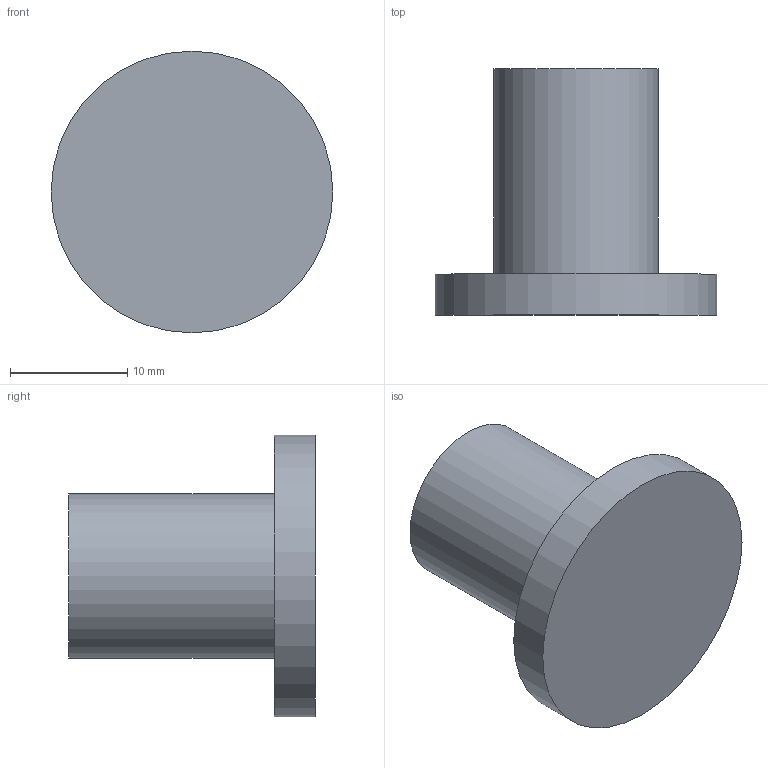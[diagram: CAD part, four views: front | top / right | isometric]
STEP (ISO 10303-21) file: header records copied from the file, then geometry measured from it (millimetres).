
FILE_DESCRIPTION( ( 'STEP AP214' ), '1' );
FILE_NAME( 'D:/Yug/2020/ProDecor_2020/QC/9266561.stp', '2020-06-01T12:03:28', ( '' ), ( '' ), ' ', 'PARTsolutions', ' ' );
FILE_SCHEMA( ( 'AUTOMOTIVE_DESIGN { 1 0 10303 214 1 1 1 1 }' ) );
Length unit declared in the file: millimetre
Products named in the file (1): _9266561
Bounding box: 24 x 21 x 24 mm (x, y, z)
Volume: 4210.5 mm3; surface area: 2020.3 mm2
Topology: 1 solids, 1 shells, 7 faces, 9 edges, 6 vertices
Faces by surface type: plane 4, cylinder 3
Full cylindrical faces by diameter (mm): 3.26 x1, 14 x1, 24 x1
Entity records: 206 total; most frequent: DIRECTION 28, CARTESIAN_POINT 20, AXIS2_PLACEMENT_3D 14, EDGE_LOOP 12, ORIENTED_EDGE 12, FACE_OUTER_BOUND 10, STYLED_ITEM 7, PRESENTATION_STYLE_ASSIGNMENT 7
